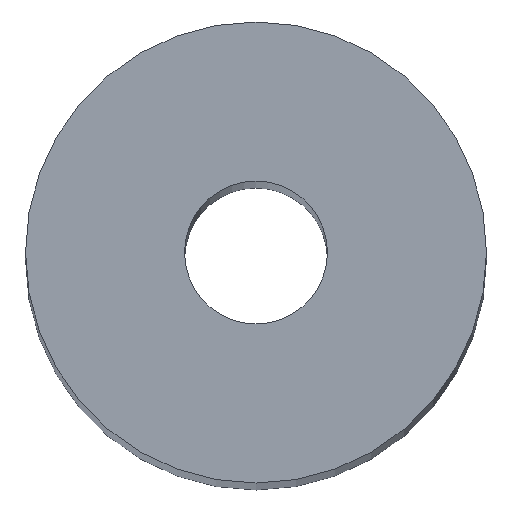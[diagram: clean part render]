
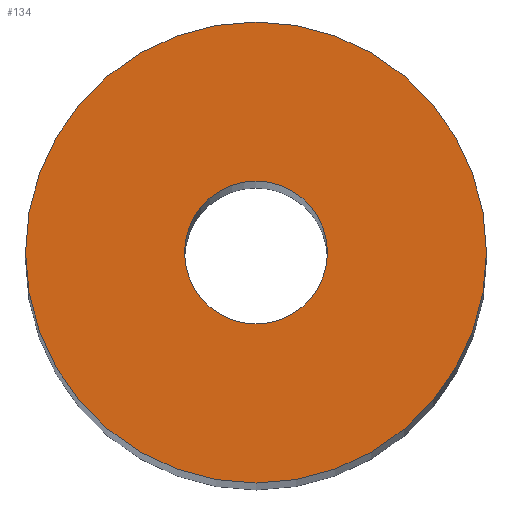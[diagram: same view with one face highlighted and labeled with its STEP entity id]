
A CAD part, top view. The second image highlights one B-rep face of the part: STEP entity #134.
In plain terms, the highlighted planar face has unit normal (0, 0, 1).
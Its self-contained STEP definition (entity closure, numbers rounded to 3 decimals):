
#29=CARTESIAN_POINT('',(0.,0.,86.5));
#30=DIRECTION('',(0.,0.,1.));
#31=DIRECTION('',(1.,0.,0.));
#32=AXIS2_PLACEMENT_3D('',#29,#30,#31);
#34=CARTESIAN_POINT('',(0.,0.,86.5));
#35=DIRECTION('',(0.,0.,1.));
#36=DIRECTION('',(-1.,0.,0.));
#37=AXIS2_PLACEMENT_3D('',#34,#35,#36);
#39=CARTESIAN_POINT('',(0.,0.,86.5));
#40=DIRECTION('',(0.,0.,-1.));
#41=DIRECTION('',(1.,0.,0.));
#42=AXIS2_PLACEMENT_3D('',#39,#40,#41);
#44=CARTESIAN_POINT('',(0.,0.,86.5));
#45=DIRECTION('',(0.,0.,-1.));
#46=DIRECTION('',(-1.,0.,0.));
#47=AXIS2_PLACEMENT_3D('',#44,#45,#46);
#65=CARTESIAN_POINT('',(10.,0.,86.5));
#66=CARTESIAN_POINT('',(-10.,0.,86.5));
#67=VERTEX_POINT('',#65);
#68=VERTEX_POINT('',#66);
#69=CARTESIAN_POINT('',(3.1,0.,86.5));
#70=CARTESIAN_POINT('',(-3.1,0.,86.5));
#71=VERTEX_POINT('',#69);
#72=VERTEX_POINT('',#70);
#119=CARTESIAN_POINT('',(0.,0.,86.5));
#120=DIRECTION('',(0.,0.,1.));
#121=DIRECTION('',(1.,0.,0.));
#122=AXIS2_PLACEMENT_3D('',#119,#120,#121);
#123=PLANE('',#122);
#124=ORIENTED_EDGE('',*,*,#99,.F.);
#125=ORIENTED_EDGE('',*,*,#113,.F.);
#126=EDGE_LOOP('',(#124,#125));
#127=FACE_OUTER_BOUND('',#126,.F.);
#129=ORIENTED_EDGE('',*,*,#128,.F.);
#131=ORIENTED_EDGE('',*,*,#130,.F.);
#132=EDGE_LOOP('',(#129,#131));
#133=FACE_BOUND('',#132,.F.);
#134=ADVANCED_FACE('',(#127,#133),#123,.T.);
#33=CIRCLE('',#32,10.);
#38=CIRCLE('',#37,10.);
#43=CIRCLE('',#42,3.1);
#48=CIRCLE('',#47,3.1);
#99=EDGE_CURVE('',#67,#68,#33,.T.);
#113=EDGE_CURVE('',#68,#67,#38,.T.);
#128=EDGE_CURVE('',#71,#72,#43,.T.);
#130=EDGE_CURVE('',#72,#71,#48,.T.);
